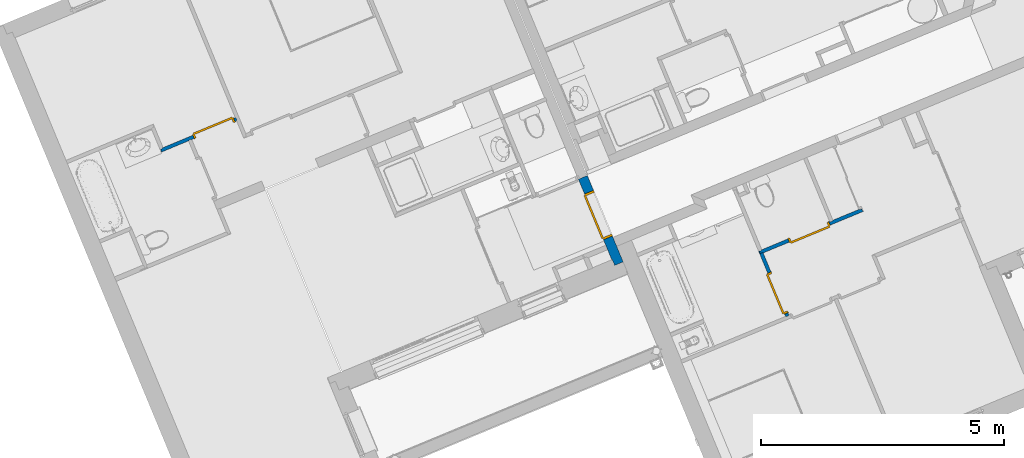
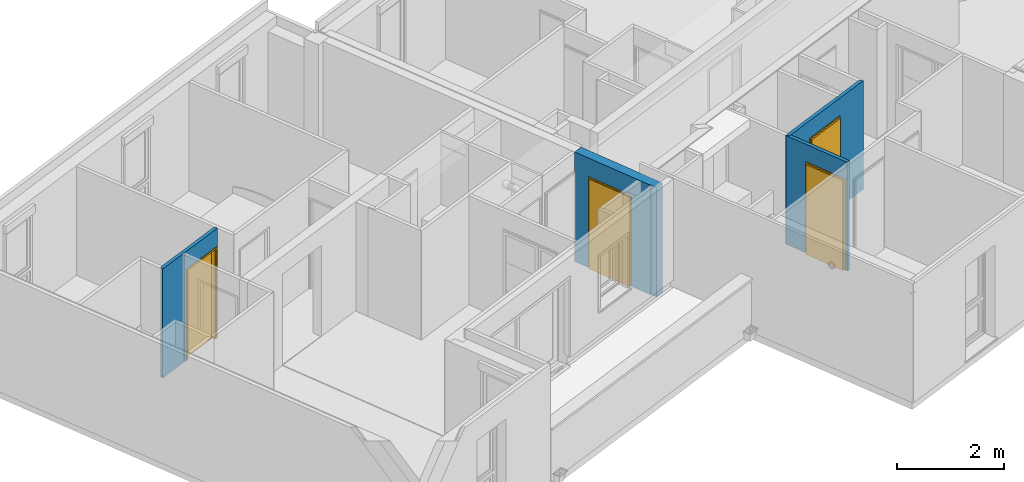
# One storey, part 5 of 91: 4 doors, 4 walls, 4 openings.
"""IFC2X3 building model written with IfcOpenShell, lengths in metres."""

import ifcopenshell
import ifcopenshell.guid

model = None  # the IFC model being written
_history = None  # IfcOwnerHistory: only IFC2X3 demands one
_inside = {}  # id of a spatial element -> (the spatial element, [elements in it])
_under = {}  # id of a project, library or spatial element -> (it, [spatial elements below it])
_declared = {}  # id of a project -> (the project, [libraries it declares])
_typed = {}  # id of a type object -> (the type object, [elements of that type])
_made_of = {}  # id of a material, layer set ... -> (it, [elements and type objects made of it])


def new_model(schema):
    """Start an empty IFC model of exactly this schema.

    Asked for "IFC4X3", IfcOpenShell would pick the latest addendum, in which some entities
    have other attributes; the version numbers below select the first issue.
    IFC2X3 requires an IfcOwnerHistory on every rooted entity: one is made here for all.
    """
    global model, _history
    if schema == "IFC4X3":
        model = ifcopenshell.file(schema_version=(4, 3, 0, 0))
    else:
        model = ifcopenshell.file(schema=schema)
    _inside.clear()
    _under.clear()
    _declared.clear()
    _typed.clear()
    _made_of.clear()
    _history = None
    if model.schema == "IFC2X3":
        org = make("IfcOrganization", Name="unknown")
        user = make(
            "IfcPersonAndOrganization",
            ThePerson=make("IfcPerson", FamilyName="unknown"),
            TheOrganization=org,
        )
        app = make(
            "IfcApplication",
            ApplicationDeveloper=org,
            Version="unknown",
            ApplicationFullName="unknown",
            ApplicationIdentifier="unknown",
        )
        _history = make(
            "IfcOwnerHistory",
            OwningUser=user,
            OwningApplication=app,
            ChangeAction="ADDED",
            CreationDate=0,
        )
    return model


def make(cls, **values):
    """One entity of the class cls with the attributes given. An attribute that is None is left unset."""
    return model.create_entity(
        cls, **{name: value for name, value in values.items() if value is not None}
    )


def entity(cls, *values):
    """Any entity or typed value of the class cls, its attributes in the order of the schema. None: left unset."""
    e = model.create_entity(cls)
    for i, value in enumerate(values):
        if value is not None:
            e[i] = value
    return e


def rooted(cls, **values):
    """An entity with a GlobalId (a new one), such as an element, a storey or a relation."""
    return make(cls, GlobalId=ifcopenshell.guid.new(), OwnerHistory=_history, **values)


def si_unit(unit_type, name, prefix=None):
    """IfcSIUnit, for example si_unit("LENGTHUNIT", "METRE", prefix="MILLI")."""
    return make("IfcSIUnit", UnitType=unit_type, Prefix=prefix, Name=name)


def converted_unit(unit_type, name, factor, base, dimensions=None, offset=None):
    """IfcConversionBasedUnit, such as the inch: factor (a typed value) times the base unit."""
    return make(
        "IfcConversionBasedUnit"
        if offset is None
        else "IfcConversionBasedUnitWithOffset",
        ConversionOffset=offset,
        Dimensions=None
        if dimensions is None
        else entity("IfcDimensionalExponents", *dimensions),
        UnitType=unit_type,
        Name=name,
        ConversionFactor=make(
            "IfcMeasureWithUnit", ValueComponent=factor, UnitComponent=base
        ),
    )


def derived_unit(unit_type, elements):
    """IfcDerivedUnit: a product of units, each with its exponent."""
    return make(
        "IfcDerivedUnit",
        Elements=[
            make("IfcDerivedUnitElement", Unit=unit, Exponent=power)
            for unit, power in elements
        ],
        UnitType=unit_type,
    )


def money_unit(currency):
    """IfcMonetaryUnit."""
    return make("IfcMonetaryUnit", Currency=currency)


def assignment(units):
    """IfcUnitAssignment: the units of a project."""
    return None if units is None else make("IfcUnitAssignment", Units=units)


def point(xyz):
    """IfcCartesianPoint."""
    return None if xyz is None else make("IfcCartesianPoint", Coordinates=xyz)


def direction(xyz):
    """IfcDirection."""
    return None if xyz is None else make("IfcDirection", DirectionRatios=xyz)


def frame(location, z_axis=None, x_axis=None):
    """IfcAxis2Placement3D, a coordinate frame: its origin and axes. An axis left out is left unset."""
    return make(
        "IfcAxis2Placement3D",
        Location=point(location),
        Axis=direction(z_axis),
        RefDirection=direction(x_axis),
    )


def origin_with_axes():
    """The frame at (0, 0, 0) with the z axis (0, 0, 1) and the x axis (1, 0, 0) written out."""
    return frame((0.0, 0.0, 0.0), z_axis=(0.0, 0.0, 1.0), x_axis=(1.0, 0.0, 0.0))


def place(relative_to, where):
    """IfcLocalPlacement: puts the frame where relative to a parent placement (None: the world)."""
    return make(
        "IfcLocalPlacement", PlacementRelTo=relative_to, RelativePlacement=where
    )


def context(
    kind, dimensions, precision=None, world=None, true_north=None, identifier=None
):
    """IfcGeometricRepresentationContext, for example the 3D "Model" context."""
    return make(
        "IfcGeometricRepresentationContext",
        ContextIdentifier=identifier,
        ContextType=kind,
        CoordinateSpaceDimension=dimensions,
        Precision=precision,
        WorldCoordinateSystem=world,
        TrueNorth=true_north,
    )


def subcontext(parent, identifier, kind, view, scale=None):
    """IfcGeometricRepresentationSubContext, for example "Body" below "Model"."""
    return make(
        "IfcGeometricRepresentationSubContext",
        ContextIdentifier=identifier,
        ContextType=kind,
        ParentContext=parent,
        TargetScale=scale,
        TargetView=view,
    )


def project(units=None, contexts=None):
    """IfcProject with its units and contexts."""
    return rooted(
        "IfcProject",
        Name="project",
        RepresentationContexts=contexts,
        UnitsInContext=assignment(units),
    )


def spatial(cls, under=None, at=None, **own):
    """A site, building, storey or space (cls), placed at a placement, below another one or the project."""
    s = rooted(cls, ObjectPlacement=at, **own)
    if under is not None:
        _under.setdefault(under.id(), (under, []))[1].append(s)
    return s


def faces_of(points, faces, orient=None, outer=None):
    """IfcFace entities. A face is a list of loops; a loop is a list of indices into points, from 0.

    orient and outer hold one flag for each loop. By default every Orientation is true, the
    first loop of a face is its IfcFaceOuterBound and the others are IfcFaceBound.
    """
    made = []
    for i, loops in enumerate(faces):
        bounds = []
        for j, loop in enumerate(loops):
            is_outer = j == 0 if outer is None else outer[i][j]
            bounds.append(
                make(
                    "IfcFaceOuterBound" if is_outer else "IfcFaceBound",
                    Bound=make("IfcPolyLoop", Polygon=[points[k] for k in loop]),
                    Orientation=True if orient is None else orient[i][j],
                )
            )
        made.append(make("IfcFace", Bounds=bounds))
    return made


def faceted_brep(points, faces, orient=None, outer=None, voids=None):
    """IfcFacetedBrep: a solid bounded by flat faces; with voids (closed shells), ...WithVoids."""
    shared = [point(p) for p in points]
    hull = make("IfcClosedShell", CfsFaces=faces_of(shared, faces, orient, outer))
    if voids is None:
        return make("IfcFacetedBrep", Outer=hull)
    return make(
        "IfcFacetedBrepWithVoids",
        Outer=hull,
        Voids=[
            make(cls, CfsFaces=faces_of(shared, fs, o, b)) for cls, fs, o, b in voids
        ],
    )


def shape(context_of_items, identifier, shape_type, items):
    """IfcShapeRepresentation: the items that make up one representation, for example the "Body"."""
    return make(
        "IfcShapeRepresentation",
        ContextOfItems=context_of_items,
        RepresentationIdentifier=identifier,
        RepresentationType=shape_type,
        Items=items,
    )


def source(mapping_origin, context_of_items, identifier, shape_type, items):
    """IfcRepresentationMap: a shape defined once, which mapped items show again and again."""
    return make(
        "IfcRepresentationMap",
        MappingOrigin=mapping_origin,
        MappedRepresentation=shape(context_of_items, identifier, shape_type, items),
    )


def transform(
    local_origin,
    x_axis=None,
    y_axis=None,
    z_axis=None,
    scale=None,
    scale2=None,
    scale3=None,
    uniform=True,
):
    """IfcCartesianTransformationOperator3D, or its non-uniform kind. x_axis, y_axis, z_axis: its Axis1, 2, 3."""
    if uniform:
        return make(
            "IfcCartesianTransformationOperator3D",
            Axis1=direction(x_axis),
            Axis2=direction(y_axis),
            LocalOrigin=point(local_origin),
            Scale=scale,
            Axis3=direction(z_axis),
        )
    return make(
        "IfcCartesianTransformationOperator3DnonUniform",
        Axis1=direction(x_axis),
        Axis2=direction(y_axis),
        LocalOrigin=point(local_origin),
        Scale=scale,
        Axis3=direction(z_axis),
        Scale2=scale2,
        Scale3=scale3,
    )


def mapped(mapping_source, mapping_target):
    """IfcMappedItem: shows the shape of a source again, moved by a transform."""
    return make(
        "IfcMappedItem", MappingSource=mapping_source, MappingTarget=mapping_target
    )


def material(Name=None, Category=None):
    """IfcMaterial."""
    return make("IfcMaterial", Name=Name, Category=Category)


def material_list(materials):
    """IfcMaterialList."""
    return make("IfcMaterialList", Materials=materials)


def made_of(thing, what):
    """Note that an element or type object is made of a material, layer set ...; save() writes the relation."""
    if what is not None:
        _made_of.setdefault(what.id(), (what, []))[1].append(thing)
    return thing


def type_object(cls, material=None, **own):
    """A type object (cls), such as IfcWallType, which elements share."""
    return made_of(rooted(cls, **own), material)


def element(
    cls,
    number,
    at=None,
    inside=None,
    cuts=None,
    type_object=None,
    material=None,
    context=None,
    identifier="Body",
    shape_type=None,
    held_by="IfcProductDefinitionShape",
    body=None,
    shapes=None,
    **own,
):
    """One element of the class cls, such as IfcWall. Its Tag is "e" and its number.

    at: its placement. inside: the storey or other place that contains it. cuts: it is an
    opening in that element (IfcRelVoidsElement). A single representation is given by context,
    identifier, shape_type and body (its items); several are given by shapes. held_by: the class
    of the entity that holds the representations. save() writes the other relations.
    """
    e = rooted(cls, Tag="e%d" % number, ObjectPlacement=at, **own)
    if body is not None:
        shapes = [shape(context, identifier, shape_type, body)]
    if shapes is not None:
        e.Representation = make(held_by, Representations=shapes)
    if inside is not None:
        _inside.setdefault(inside.id(), (inside, []))[1].append(e)
    if cuts is not None:
        rooted(
            "IfcRelVoidsElement", RelatingBuildingElement=cuts, RelatedOpeningElement=e
        )
    if type_object is not None:
        _typed.setdefault(type_object.id(), (type_object, []))[1].append(e)
    return made_of(e, material)


def fill(opening, filler):
    """IfcRelFillsElement: the door or window that sits in an opening."""
    return rooted(
        "IfcRelFillsElement",
        RelatingOpeningElement=opening,
        RelatedBuildingElement=filler,
    )


def aggregate(whole, parts):
    """IfcRelAggregates: a whole, such as a stair, and the parts it consists of."""
    return rooted("IfcRelAggregates", RelatingObject=whole, RelatedObjects=parts)


def save(model, path):
    """Write the relations noted so far, then the file.

    IfcRelAggregates (storeys below a building ...), IfcRelContainedInSpatialStructure (elements
    in a storey), IfcRelDefinesByType, IfcRelAssociatesMaterial and IfcRelDeclares: one each for
    every whole, place, type object, material and project.
    """
    for whole, parts in _under.values():
        aggregate(whole, parts)
    for where, things in _inside.values():
        rooted(
            "IfcRelContainedInSpatialStructure",
            RelatedElements=things,
            RelatingStructure=where,
        )
    for kind, things in _typed.values():
        rooted("IfcRelDefinesByType", RelatedObjects=things, RelatingType=kind)
    for what, things in _made_of.values():
        rooted("IfcRelAssociatesMaterial", RelatedObjects=things, RelatingMaterial=what)
    for by, libraries in _declared.values():
        rooted("IfcRelDeclares", RelatingContext=by, RelatedDefinitions=libraries)
    model.write(path)


model = new_model("IFC2X3")

# Units and contexts
model_context = context("Model", 3, precision=1e-05, world=origin_with_axes(), true_north=direction((0.0, 1.0)))
body_context = subcontext(model_context, "Body", "Model", "MODEL_VIEW")
ifc_project = project(units=[si_unit("LENGTHUNIT", "METRE"), si_unit("AREAUNIT", "SQUARE_METRE"), si_unit("VOLUMEUNIT", "CUBIC_METRE"), converted_unit("PLANEANGLEUNIT", "DEGREE", entity("IfcPlaneAngleMeasure", 0.0174532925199), si_unit("PLANEANGLEUNIT", "RADIAN"), dimensions=[0, 0, 0, 0, 0, 0, 0]), si_unit("SOLIDANGLEUNIT", "STERADIAN"), money_unit("EUR"), converted_unit("TIMEUNIT", "Year", entity("IfcTimeMeasure", 31556926.0), si_unit("TIMEUNIT", "SECOND"), dimensions=[0, 0, 1, 0, 0, 0, 0]), si_unit("MASSUNIT", "GRAM", prefix="KILO"), si_unit("THERMODYNAMICTEMPERATUREUNIT", "DEGREE_CELSIUS"), si_unit("LUMINOUSINTENSITYUNIT", "LUMEN"), si_unit("ENERGYUNIT", "JOULE", prefix="MEGA"), derived_unit("THERMALCONDUCTANCEUNIT", [(si_unit("POWERUNIT", "WATT"), 1), (si_unit("LENGTHUNIT", "METRE"), -1), (si_unit("THERMODYNAMICTEMPERATUREUNIT", "KELVIN"), -1)]), derived_unit("SPECIFICHEATCAPACITYUNIT", [(si_unit("ENERGYUNIT", "JOULE"), 1), (si_unit("MASSUNIT", "GRAM", prefix="KILO"), -1), (si_unit("THERMODYNAMICTEMPERATUREUNIT", "KELVIN"), -1)]), derived_unit("MASSDENSITYUNIT", [(si_unit("MASSUNIT", "GRAM", prefix="KILO"), 1), (si_unit("VOLUMEUNIT", "CUBIC_METRE"), -1)])], contexts=[model_context])

# Site, building, storey
site_placement = place(None, origin_with_axes())
site = spatial("IfcSite", under=ifc_project, at=site_placement, Name="Site", CompositionType="ELEMENT")
building_placement = place(site_placement, origin_with_axes())
building = spatial("IfcBuilding", under=site, at=building_placement, Name="Bâtiment", CompositionType="ELEMENT")
storey_placement = place(building_placement, frame((0.0, 0.0, 5.44), z_axis=(0.0, 0.0, 1.0), x_axis=(1.0, 0.0, 0.0)))
storey = spatial("IfcBuildingStorey", under=building, at=storey_placement, Name="R+2", CompositionType="ELEMENT", Elevation=5.44)

# Wall, opening, door
ifc_material_1 = material(Name="Finition int - Plaque de plâtre")
ifc_material_2 = material(Name="Isolation - Laine de roche")
ifc_material_list_1 = material_list([ifc_material_1, ifc_material_2, ifc_material_1])
wall_type_1 = type_object("IfcWallType", Name="3 - Cloison 72mm Placostil 74", PredefinedType="USERDEFINED")
wall_1_placement = place(storey_placement, frame((-19.5274599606, -22.5640409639, 0.0), z_axis=(0.0, 0.0, 1.0), x_axis=(0.923701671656, 0.383112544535, 0.0)))
wall_1 = element("IfcWall", 1, at=wall_1_placement, inside=storey, type_object=wall_type_1, material=ifc_material_list_1, Name="Cloison Placostil 72/48", ObjectType="PARTITIONING", context=body_context, shape_type="Brep", body=[
    faceted_brep([(-0.0609999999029, 0.074, 2.49), (-0.060999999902, 0.061, 2.49), (-0.060999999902, 0.061, 0.0), (-0.0609999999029, 0.074, 0.0), (-0.073999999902, 0.061, 2.49), (-0.0739999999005, 0.074, 2.49), (-0.073999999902, 0.061, 0.0), (-0.0739999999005, 0.074, 0.0)], [[[0, 1, 2, 3]], [[4, 1, 0, 5]], [[1, 4, 6, 2]], [[7, 3, 2, 6]], [[5, 0, 3, 7]], [[4, 5, 7, 6]]]),
    faceted_brep([(0.58436218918, 0.061, 0.0), (0.58436218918, 0.061, 2.08), (1.49436218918, 0.061, 2.08), (1.49436218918, 0.061, 0.0), (1.52599999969, 0.061, 0.0), (1.52599999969, 0.061, 2.49), (-0.013, 0.061, 2.49), (-0.013, 0.061, 0.0), (0.58436218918, 0.074, 0.0), (0.58436218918, 0.074, 2.08), (1.49436218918, 0.074, 2.08), (1.49436218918, 0.074, 0.0), (1.52599999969, 0.074, 0.0), (1.52599999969, 0.074, 2.49), (-0.013, 0.074, 2.49), (-0.013, 0.074, 0.0)], [[[0, 1, 2, 3, 4, 5, 6, 7]], [[1, 0, 8, 9]], [[2, 1, 9, 10]], [[3, 2, 10, 11]], [[3, 11, 12, 4]], [[5, 4, 12, 13]], [[5, 13, 14, 6]], [[14, 15, 7, 6]], [[8, 0, 7, 15]], [[9, 8, 15, 14, 13, 12, 11, 10]]]),
    faceted_brep([(2.1759999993, 0.074, 2.49), (2.17599999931, 0.061, 2.49), (2.17599999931, 0.061, 0.0), (2.1759999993, 0.074, 0.0), (1.57399999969, 0.061, 2.49), (1.57399999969, 0.074, 2.49), (1.57399999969, 0.061, 0.0), (1.57399999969, 0.074, 0.0)], [[[0, 1, 2, 3]], [[4, 1, 0, 5]], [[1, 4, 6, 2]], [[3, 2, 6, 7]], [[5, 0, 3, 7]], [[4, 5, 7, 6]]]),
    faceted_brep([(0.58436218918, 0.013, 0.0), (0.58436218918, 0.013, 2.08), (1.49436218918, 0.013, 2.08), (1.49436218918, 0.013, 0.0), (2.22399999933, 0.013, 0.0), (2.22399999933, 0.013, 2.49), (-0.0609999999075, 0.013, 2.49), (-0.0609999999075, 0.013, 0.0), (0.58436218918, 0.061, 0.0), (0.58436218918, 0.061, 2.08), (1.49436218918, 0.061, 2.08), (1.49436218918, 0.061, 0.0), (2.22399999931, 0.061, 0.0), (2.22399999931, 0.061, 2.49), (-0.060999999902, 0.061, 2.49), (-0.060999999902, 0.061, 0.0)], [[[0, 1, 2, 3, 4, 5, 6, 7]], [[1, 0, 8, 9]], [[2, 1, 9, 10]], [[3, 2, 10, 11]], [[3, 11, 12, 4]], [[5, 4, 12, 13]], [[5, 13, 14, 6]], [[14, 15, 7, 6]], [[8, 0, 7, 15]], [[9, 8, 15, 14, 13, 12, 11, 10]]]),
    faceted_brep([(0.58436218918, 0.0, 0.0), (0.58436218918, 0.0, 2.08), (1.49436218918, 0.0, 2.08), (1.49436218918, 0.0, 0.0), (2.23699999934, 0.0, 0.0), (2.23699999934, 0.0, 2.49), (-0.012999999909, 0.0, 2.49), (-0.012999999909, 0.0, 0.0), (0.58436218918, 0.013, 0.0), (0.58436218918, 0.013, 2.08), (1.49436218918, 0.013, 2.08), (1.49436218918, 0.013, 0.0), (2.23699999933, 0.013, 0.0), (2.23699999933, 0.013, 2.49), (-0.0129999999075, 0.013, 2.49), (-0.0129999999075, 0.013, 0.0)], [[[0, 1, 2, 3, 4, 5, 6, 7]], [[1, 0, 8, 9]], [[2, 1, 9, 10]], [[3, 2, 10, 11]], [[3, 11, 12, 4]], [[5, 4, 12, 13]], [[5, 13, 14, 6]], [[14, 15, 7, 6]], [[8, 0, 7, 15]], [[9, 8, 15, 14, 13, 12, 11, 10]]]),
])
opening_1_placement = place(wall_1_placement, frame((1.03936218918, 0.0, 0.0), z_axis=(0.0, 0.0, 1.0), x_axis=(1.0, 0.0, 0.0)))
opening_1 = element("IfcOpeningElement", 2, at=opening_1_placement, cuts=wall_1, Name="Porte 83x204 bois alvéolaire", context=body_context, shape_type="Brep", body=[
    faceted_brep([(-0.455, 0.074, 0.0), (0.455, 0.074, 0.0), (0.455, -0.074, 0.0), (-0.455, -0.074, 0.0), (-0.455, 0.074, 2.08), (0.455, 0.074, 2.08), (0.455, -0.074, 2.08), (-0.455, -0.074, 2.08)], [[[0, 1, 2, 3]], [[0, 4, 5, 1]], [[1, 5, 6, 2]], [[3, 2, 6, 7]], [[4, 0, 3, 7]], [[5, 4, 7, 6]]]),
])
door_style_1 = type_object("IfcDoorStyle", Name="Porte int générique 2019", ConstructionType="NOTDEFINED", OperationType="SINGLE_SWING_RIGHT", ParameterTakesPrecedence=False, Sizeable=False)
shared_shape_1 = source(origin_with_axes(), body_context, "Body", "Brep", [
    faceted_brep([(0.455, 0.0, 0.0), (0.415, 0.0, 0.0), (0.415, 0.0, 2.04), (-0.415, 0.0, 2.04), (-0.415, 0.0, 0.0), (-0.455, 0.0, 0.0), (-0.455, 0.0, 2.08), (0.455, 0.0, 2.08), (0.455, -0.074, 0.0), (0.415, -0.074, 0.0), (0.415, -0.074, 2.04), (-0.415, -0.074, 2.04), (-0.415, -0.074, 0.0), (-0.455, -0.074, 0.0), (-0.455, -0.074, 2.08), (0.455, -0.074, 2.08)], [[[0, 1, 2, 3, 4, 5, 6, 7]], [[0, 8, 9, 1]], [[1, 9, 10, 2]], [[2, 10, 11, 3]], [[3, 11, 12, 4]], [[5, 4, 12, 13]], [[14, 6, 5, 13]], [[15, 7, 6, 14]], [[8, 0, 7, 15]], [[9, 8, 15, 14, 13, 12, 11, 10]]]),
    faceted_brep([(0.465, 0.0, 0.0), (0.465, 0.01, 0.0), (0.465, 0.01, 2.09), (0.465, 0.0, 2.09), (0.435, 0.0, 0.0), (0.435, 0.01, 0.0), (0.435, 0.01, 2.06), (-0.435, 0.01, 2.06), (-0.435, 0.01, 0.0), (-0.465, 0.01, 0.0), (-0.465, 0.01, 2.09), (-0.465, 0.0, 2.09), (-0.465, 0.0, 0.0), (-0.435, 0.0, 0.0), (-0.435, 0.0, 2.06), (0.435, 0.0, 2.06)], [[[0, 1, 2, 3]], [[0, 4, 5, 1]], [[1, 5, 6, 7, 8, 9, 10, 2]], [[3, 2, 10, 11]], [[4, 0, 3, 11, 12, 13, 14, 15]], [[5, 4, 15, 6]], [[6, 15, 14, 7]], [[7, 14, 13, 8]], [[12, 9, 8, 13]], [[11, 10, 9, 12]]]),
    faceted_brep([(0.465, -0.084, 0.0), (0.465, -0.074, 0.0), (0.465, -0.074, 2.09), (0.465, -0.084, 2.09), (0.435, -0.084, 0.0), (0.435, -0.074, 0.0), (0.435, -0.074, 2.06), (-0.435, -0.074, 2.06), (-0.435, -0.074, 0.0), (-0.465, -0.074, 0.0), (-0.465, -0.074, 2.09), (-0.465, -0.084, 2.09), (-0.465, -0.084, 0.0), (-0.435, -0.084, 0.0), (-0.435, -0.084, 2.06), (0.435, -0.084, 2.06)], [[[0, 1, 2, 3]], [[0, 4, 5, 1]], [[1, 5, 6, 7, 8, 9, 10, 2]], [[3, 2, 10, 11]], [[4, 0, 3, 11, 12, 13, 14, 15]], [[5, 4, 15, 6]], [[6, 15, 14, 7]], [[7, 14, 13, 8]], [[12, 9, 8, 13]], [[11, 10, 9, 12]]]),
    faceted_brep([(0.435, 0.04, 0.0), (0.435, 0.0, 0.0), (-0.435, 0.0, 0.0), (-0.435, 0.04, 0.0), (0.435, 0.04, 2.06), (0.435, 0.0, 2.06), (-0.435, 0.0, 2.06), (-0.435, 0.04, 2.06)], [[[0, 1, 2, 3]], [[4, 5, 1, 0]], [[1, 5, 6, 2]], [[3, 2, 6, 7]], [[0, 3, 7, 4]], [[7, 6, 5, 4]]]),
])
door_1_placement = place(opening_1_placement, frame((0.415, 0.0, 0.0), z_axis=(0.0, 0.0, 1.0), x_axis=(-1.0, 0.0, 0.0)))
door_1 = element("IfcDoor", 3, at=door_1_placement, inside=storey, type_object=door_style_1, Name="Porte 83x204 bois alvéolaire", ObjectType="DOOR", OverallHeight=2.04, OverallWidth=0.83, context=body_context, shape_type="MappedRepresentation", body=[
    mapped(shared_shape_1, transform((0.415, 0.0, 0.0))),
])
fill(opening_1, door_1)

wall_2_placement = place(storey_placement, frame((-31.9688321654, -20.4191360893, 0.0), z_axis=(0.0, 0.0, 1.0), x_axis=(0.92370167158, 0.383112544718, 0.0)))
wall_2 = element("IfcWall", 4, at=wall_2_placement, inside=storey, type_object=wall_type_1, material=ifc_material_list_1, Name="Cloison Placostil 72/48", ObjectType="PARTITIONING", context=body_context, shape_type="Brep", body=[
    faceted_brep([(0.73841163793, -0.013, 0.0), (0.73841163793, -0.013, 2.08), (1.64841163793, -0.013, 2.08), (1.64841163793, -0.013, 0.0), (1.68537633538, -0.013, 0.0), (1.68537633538, -0.013, 2.5), (0.0610000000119, -0.013, 2.5), (0.0610000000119, -0.013, 0.0), (0.73841163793, 0.0, 0.0), (0.73841163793, 0.0, 2.08), (1.64841163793, 0.0, 2.08), (1.64841163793, 0.0, 0.0), (1.68537633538, 0.0, 0.0), (1.68537633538, 0.0, 2.5), (0.061, 0.0, 2.5), (0.061, 0.0, 0.0)], [[[0, 1, 2, 3, 4, 5, 6, 7]], [[1, 0, 8, 9]], [[2, 1, 9, 10]], [[3, 2, 10, 11]], [[3, 11, 12, 4]], [[5, 4, 12, 13]], [[13, 14, 6, 5]], [[6, 14, 15, 7]], [[8, 0, 7, 15]], [[9, 8, 15, 14, 13, 12, 11, 10]]]),
    faceted_brep([(0.73841163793, -0.061, 0.0), (0.73841163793, -0.061, 2.08), (1.64841163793, -0.061, 2.08), (1.64841163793, -0.061, 0.0), (1.69837633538, -0.061, 0.0), (1.69837633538, -0.061, 2.5), (0.0130000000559, -0.061, 2.5), (0.0130000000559, -0.061, 0.0), (0.73841163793, -0.013, 0.0), (0.73841163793, -0.013, 2.08), (1.64841163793, -0.013, 2.08), (1.64841163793, -0.013, 0.0), (1.69837633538, -0.013, 0.0), (1.69837633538, -0.013, 2.5), (0.0130000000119, -0.013, 2.5), (0.0130000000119, -0.013, 0.0)], [[[0, 1, 2, 3, 4, 5, 6, 7]], [[1, 0, 8, 9]], [[2, 1, 9, 10]], [[3, 2, 10, 11]], [[3, 11, 12, 4]], [[5, 4, 12, 13]], [[13, 14, 6, 5]], [[6, 14, 15, 7]], [[8, 0, 7, 15]], [[9, 8, 15, 14, 13, 12, 11, 10]]]),
    faceted_brep([(0.73841163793, -0.074, 0.0), (0.73841163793, -0.074, 2.08), (1.64841163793, -0.074, 2.08), (1.64841163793, -0.074, 0.0), (1.68537633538, -0.074, 0.0), (1.68537633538, -0.074, 2.5), (0.672359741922, -0.074, 2.5), (0.672359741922, -0.074, 0.0), (0.73841163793, -0.061, 0.0), (0.73841163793, -0.061, 2.08), (1.64841163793, -0.061, 2.08), (1.64841163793, -0.061, 0.0), (1.68537633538, -0.061, 0.0), (1.68537633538, -0.061, 2.5), (0.672359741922, -0.061, 2.5), (0.672359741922, -0.061, 0.0)], [[[0, 1, 2, 3, 4, 5, 6, 7]], [[1, 0, 8, 9]], [[2, 1, 9, 10]], [[3, 2, 10, 11]], [[3, 11, 12, 4]], [[5, 4, 12, 13]], [[13, 14, 6, 5]], [[6, 14, 15, 7]], [[8, 0, 7, 15]], [[9, 8, 15, 14, 13, 12, 11, 10]]]),
    faceted_brep([(0.624359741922, -0.074, 2.5), (0.624359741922, -0.061, 2.5), (0.0, -0.061, 2.5), (0.0, -0.074, 2.5), (0.624359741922, -0.074, 0.0), (0.624359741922, -0.061, 0.0), (0.0, -0.061, 0.0), (0.0, -0.074, 0.0)], [[[0, 1, 2, 3]], [[1, 0, 4, 5]], [[1, 5, 6, 2]], [[7, 3, 2, 6]], [[4, 0, 3, 7]], [[5, 4, 7, 6]]]),
])
opening_2_placement = place(wall_2_placement, frame((1.19341163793, 0.0, 0.0), z_axis=(0.0, 0.0, 1.0), x_axis=(1.0, 0.0, 0.0)))
opening_2 = element("IfcOpeningElement", 5, at=opening_2_placement, cuts=wall_2, Name="Porte 83x204 bois alvéolaire", context=body_context, shape_type="Brep", body=[
    faceted_brep([(0.455, -0.074, 0.0), (-0.455, -0.074, 0.0), (-0.455, 0.074, 0.0), (0.455, 0.074, 0.0), (0.455, -0.074, 2.08), (-0.455, -0.074, 2.08), (-0.455, 0.074, 2.08), (0.455, 0.074, 2.08)], [[[0, 1, 2, 3]], [[0, 4, 5, 1]], [[1, 5, 6, 2]], [[3, 2, 6, 7]], [[4, 0, 3, 7]], [[5, 4, 7, 6]]]),
])
shared_shape_2 = source(origin_with_axes(), body_context, "Body", "Brep", [
    faceted_brep([(0.455, -0.006, 0.0), (0.415, -0.006, 0.0), (0.415, -0.006, 2.04), (-0.415, -0.006, 2.04), (-0.415, -0.006, 0.0), (-0.455, -0.006, 0.0), (-0.455, -0.006, 2.08), (0.455, -0.006, 2.08), (0.455, -0.08, 0.0), (0.415, -0.08, 0.0), (0.415, -0.08, 2.04), (-0.415, -0.08, 2.04), (-0.415, -0.08, 0.0), (-0.455, -0.08, 0.0), (-0.455, -0.08, 2.08), (0.455, -0.08, 2.08)], [[[0, 1, 2, 3, 4, 5, 6, 7]], [[0, 8, 9, 1]], [[1, 9, 10, 2]], [[2, 10, 11, 3]], [[3, 11, 12, 4]], [[5, 4, 12, 13]], [[14, 6, 5, 13]], [[15, 7, 6, 14]], [[8, 0, 7, 15]], [[9, 8, 15, 14, 13, 12, 11, 10]]]),
    faceted_brep([(0.465, -0.006, 0.0), (0.465, 0.004, 0.0), (0.465, 0.004, 2.09), (0.465, -0.006, 2.09), (0.435, -0.006, 0.0), (0.435, 0.004, 0.0), (0.435, 0.004, 2.06), (-0.435, 0.004, 2.06), (-0.435, 0.004, 0.0), (-0.465, 0.004, 0.0), (-0.465, 0.004, 2.09), (-0.465, -0.006, 2.09), (-0.465, -0.006, 0.0), (-0.435, -0.006, 0.0), (-0.435, -0.006, 2.06), (0.435, -0.006, 2.06)], [[[0, 1, 2, 3]], [[0, 4, 5, 1]], [[1, 5, 6, 7, 8, 9, 10, 2]], [[3, 2, 10, 11]], [[4, 0, 3, 11, 12, 13, 14, 15]], [[5, 4, 15, 6]], [[6, 15, 14, 7]], [[7, 14, 13, 8]], [[12, 9, 8, 13]], [[11, 10, 9, 12]]]),
    faceted_brep([(0.465, -0.09, 0.0), (0.465, -0.08, 0.0), (0.465, -0.08, 2.09), (0.465, -0.09, 2.09), (0.435, -0.09, 0.0), (0.435, -0.08, 0.0), (0.435, -0.08, 2.06), (-0.435, -0.08, 2.06), (-0.435, -0.08, 0.0), (-0.465, -0.08, 0.0), (-0.465, -0.08, 2.09), (-0.465, -0.09, 2.09), (-0.465, -0.09, 0.0), (-0.435, -0.09, 0.0), (-0.435, -0.09, 2.06), (0.435, -0.09, 2.06)], [[[0, 1, 2, 3]], [[0, 4, 5, 1]], [[1, 5, 6, 7, 8, 9, 10, 2]], [[3, 2, 10, 11]], [[4, 0, 3, 11, 12, 13, 14, 15]], [[5, 4, 15, 6]], [[6, 15, 14, 7]], [[7, 14, 13, 8]], [[12, 9, 8, 13]], [[11, 10, 9, 12]]]),
    faceted_brep([(0.435, 0.034, 0.0), (0.435, -0.006, 0.0), (-0.435, -0.006, 0.0), (-0.435, 0.034, 0.0), (0.435, 0.034, 2.06), (0.435, -0.006, 2.06), (-0.435, -0.006, 2.06), (-0.435, 0.034, 2.06)], [[[0, 1, 2, 3]], [[4, 5, 1, 0]], [[1, 5, 6, 2]], [[3, 2, 6, 7]], [[0, 3, 7, 4]], [[7, 6, 5, 4]]]),
])
door_2_placement = place(opening_2_placement, frame((-0.415, 0.0, 0.0), z_axis=(0.0, 0.0, 1.0), x_axis=(1.0, 0.0, 0.0)))
door_2 = element("IfcDoor", 6, at=door_2_placement, inside=storey, type_object=door_style_1, Name="Porte 83x204 bois alvéolaire", ObjectType="DOOR", OverallHeight=2.04, OverallWidth=0.83, context=body_context, shape_type="MappedRepresentation", body=[
    mapped(shared_shape_2, transform((0.415, 0.006, 0.0))),
])
fill(opening_2, door_2)

wall_3_placement = place(storey_placement, frame((-19.5274599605, -22.5640409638, 0.0), z_axis=(0.0, 0.0, 1.0), x_axis=(0.383112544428, -0.9237016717, 0.0)))
wall_3 = element("IfcWall", 7, at=wall_3_placement, inside=storey, type_object=wall_type_1, material=ifc_material_list_1, Name="Cloison Placostil 72/48", ObjectType="PARTITIONING", context=body_context, shape_type="Brep", body=[
    faceted_brep([(0.421831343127, 0.0, 2.08), (0.421831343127, 0.0, 0.0), (0.0, 0.0, 0.0), (0.0, 0.0, 2.49), (1.38390078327, 0.0, 2.49), (1.38390078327, 0.0, 0.0), (1.33183134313, 0.0, 0.0), (1.33183134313, 0.0, 2.08), (0.421831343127, -0.013, 2.08), (0.421831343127, -0.013, 0.0), (0.0, -0.013, 0.0), (0.0, -0.013, 2.49), (1.38390078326, -0.013, 2.49), (1.38390078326, -0.013, 0.0), (1.33183134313, -0.013, 0.0), (1.33183134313, -0.013, 2.08)], [[[0, 1, 2, 3, 4, 5, 6, 7]], [[1, 0, 8, 9]], [[1, 9, 10, 2]], [[3, 2, 10, 11]], [[4, 3, 11, 12]], [[12, 13, 5, 4]], [[14, 6, 5, 13]], [[7, 6, 14, 15]], [[0, 7, 15, 8]], [[15, 14, 13, 12, 11, 10, 9, 8]]]),
    faceted_brep([(0.421831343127, -0.013, 2.08), (0.421831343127, -0.013, 0.0), (-0.0129999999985, -0.013, 0.0), (-0.0129999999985, -0.013, 2.49), (1.39690078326, -0.013, 2.49), (1.39690078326, -0.013, 0.0), (1.33183134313, -0.013, 0.0), (1.33183134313, -0.013, 2.08), (0.421831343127, -0.061, 2.08), (0.421831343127, -0.061, 0.0), (-0.0129999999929, -0.061, 0.0), (-0.0129999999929, -0.061, 2.49), (1.39690078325, -0.061, 2.49), (1.39690078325, -0.061, 0.0), (1.33183134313, -0.061, 0.0), (1.33183134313, -0.061, 2.08)], [[[0, 1, 2, 3, 4, 5, 6, 7]], [[1, 0, 8, 9]], [[1, 9, 10, 2]], [[3, 2, 10, 11]], [[4, 3, 11, 12]], [[12, 13, 5, 4]], [[14, 6, 5, 13]], [[7, 6, 14, 15]], [[0, 7, 15, 8]], [[15, 14, 13, 12, 11, 10, 9, 8]]]),
    faceted_brep([(0.421831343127, -0.061, 2.08), (0.421831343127, -0.061, 0.0), (-0.0609999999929, -0.061, 0.0), (-0.0609999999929, -0.061, 2.49), (1.38390078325, -0.061, 2.49), (1.38390078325, -0.061, 0.0), (1.33183134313, -0.061, 0.0), (1.33183134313, -0.061, 2.08), (0.421831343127, -0.074, 2.08), (0.421831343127, -0.074, 0.0), (-0.0609999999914, -0.074, 0.0), (-0.0609999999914, -0.074, 2.49), (1.38390078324, -0.074, 2.49), (1.38390078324, -0.074, 0.0), (1.33183134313, -0.074, 0.0), (1.33183134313, -0.074, 2.08)], [[[0, 1, 2, 3, 4, 5, 6, 7]], [[1, 0, 8, 9]], [[1, 9, 10, 2]], [[3, 2, 10, 11]], [[4, 3, 11, 12]], [[12, 13, 5, 4]], [[14, 6, 5, 13]], [[7, 6, 14, 15]], [[0, 7, 15, 8]], [[15, 14, 13, 12, 11, 10, 9, 8]]]),
])
opening_3_placement = place(wall_3_placement, frame((0.876831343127, 0.0, 0.0), z_axis=(0.0, 0.0, 1.0), x_axis=(1.0, 0.0, 0.0)))
opening_3 = element("IfcOpeningElement", 8, at=opening_3_placement, cuts=wall_3, Name="Porte 83x204 bois alvéolaire", context=body_context, shape_type="Brep", body=[
    faceted_brep([(0.455, -0.074, 0.0), (-0.455, -0.074, 0.0), (-0.455, 0.074, 0.0), (0.455, 0.074, 0.0), (0.455, -0.074, 2.08), (-0.455, -0.074, 2.08), (-0.455, 0.074, 2.08), (0.455, 0.074, 2.08)], [[[0, 1, 2, 3]], [[0, 4, 5, 1]], [[1, 5, 6, 2]], [[3, 2, 6, 7]], [[4, 0, 3, 7]], [[5, 4, 7, 6]]]),
])
door_style_2 = type_object("IfcDoorStyle", Name="Porte int générique 2019", ConstructionType="NOTDEFINED", OperationType="SINGLE_SWING_LEFT", ParameterTakesPrecedence=False, Sizeable=False)
shared_shape_3 = source(origin_with_axes(), body_context, "Body", "Brep", [
    faceted_brep([(-0.455, -0.006, 0.0), (-0.455, -0.006, 2.08), (0.455, -0.006, 2.08), (0.455, -0.006, 0.0), (0.415, -0.006, 0.0), (0.415, -0.006, 2.04), (-0.415, -0.006, 2.04), (-0.415, -0.006, 0.0), (-0.455, -0.08, 0.0), (-0.455, -0.08, 2.08), (0.455, -0.08, 2.08), (0.455, -0.08, 0.0), (0.415, -0.08, 0.0), (0.415, -0.08, 2.04), (-0.415, -0.08, 2.04), (-0.415, -0.08, 0.0)], [[[0, 1, 2, 3, 4, 5, 6, 7]], [[8, 9, 1, 0]], [[9, 10, 2, 1]], [[10, 11, 3, 2]], [[3, 11, 12, 4]], [[5, 4, 12, 13]], [[6, 5, 13, 14]], [[7, 6, 14, 15]], [[0, 7, 15, 8]], [[15, 14, 13, 12, 11, 10, 9, 8]]]),
    faceted_brep([(-0.465, -0.006, 0.0), (-0.465, -0.006, 2.09), (-0.465, 0.004, 2.09), (-0.465, 0.004, 0.0), (-0.435, -0.006, 0.0), (-0.435, -0.006, 2.06), (0.435, -0.006, 2.06), (0.435, -0.006, 0.0), (0.465, -0.006, 0.0), (0.465, -0.006, 2.09), (0.465, 0.004, 2.09), (0.465, 0.004, 0.0), (0.435, 0.004, 0.0), (0.435, 0.004, 2.06), (-0.435, 0.004, 2.06), (-0.435, 0.004, 0.0)], [[[0, 1, 2, 3]], [[4, 5, 6, 7, 8, 9, 1, 0]], [[1, 9, 10, 2]], [[3, 2, 10, 11, 12, 13, 14, 15]], [[0, 3, 15, 4]], [[15, 14, 5, 4]], [[14, 13, 6, 5]], [[13, 12, 7, 6]], [[8, 7, 12, 11]], [[9, 8, 11, 10]]]),
    faceted_brep([(-0.465, -0.09, 0.0), (-0.465, -0.09, 2.09), (-0.465, -0.08, 2.09), (-0.465, -0.08, 0.0), (-0.435, -0.09, 0.0), (-0.435, -0.09, 2.06), (0.435, -0.09, 2.06), (0.435, -0.09, 0.0), (0.465, -0.09, 0.0), (0.465, -0.09, 2.09), (0.465, -0.08, 2.09), (0.465, -0.08, 0.0), (0.435, -0.08, 0.0), (0.435, -0.08, 2.06), (-0.435, -0.08, 2.06), (-0.435, -0.08, 0.0)], [[[0, 1, 2, 3]], [[4, 5, 6, 7, 8, 9, 1, 0]], [[1, 9, 10, 2]], [[3, 2, 10, 11, 12, 13, 14, 15]], [[0, 3, 15, 4]], [[15, 14, 5, 4]], [[14, 13, 6, 5]], [[13, 12, 7, 6]], [[8, 7, 12, 11]], [[9, 8, 11, 10]]]),
    faceted_brep([(-0.435, 0.034, 0.0), (0.435, 0.034, 0.0), (0.435, -0.006, 0.0), (-0.435, -0.006, 0.0), (-0.435, 0.034, 2.06), (0.435, 0.034, 2.06), (0.435, -0.006, 2.06), (-0.435, -0.006, 2.06)], [[[0, 1, 2, 3]], [[0, 4, 5, 1]], [[1, 5, 6, 2]], [[3, 2, 6, 7]], [[4, 0, 3, 7]], [[5, 4, 7, 6]]]),
])
door_3_placement = place(opening_3_placement, frame((0.415, 0.0, 0.0), z_axis=(0.0, 0.0, 1.0), x_axis=(-1.0, 0.0, 0.0)))
door_3 = element("IfcDoor", 9, at=door_3_placement, inside=storey, type_object=door_style_2, Name="Porte 83x204 bois alvéolaire", ObjectType="DOOR", OverallHeight=2.04, OverallWidth=0.83, context=body_context, shape_type="MappedRepresentation", body=[
    mapped(shared_shape_3, transform((0.415, 0.08, 0.0))),
])
fill(opening_3, door_3)

ifc_material_3 = material(Name="Finition int - Enduit plâtre")
ifc_material_4 = material(Name="Béton")
ifc_material_list_2 = material_list([ifc_material_3, ifc_material_4, ifc_material_3])
wall_type_2 = type_object("IfcWallType", Name="2 - Murs Béton 18 + Enduit 2 Faces 200", PredefinedType="USERDEFINED")
wall_4_placement = place(storey_placement, frame((-23.1620561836, -20.9710818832, 0.0), z_axis=(0.0, 0.0, 1.0), x_axis=(0.383112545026, -0.923701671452, 0.0)))
wall_4 = element("IfcWall", 10, at=wall_4_placement, inside=storey, type_object=wall_type_2, material=ifc_material_list_2, Name="M_Ext-008", ObjectType="SOLIDWALL", context=body_context, shape_type="Brep", body=[
    faceted_brep([(0.330109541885, 0.01, 2.085), (0.330109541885, 0.01, 0.0), (0.0, 0.01, 0.0), (0.0, 0.01, 2.51), (1.92732751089, 0.01, 2.50999999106), (1.92732751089, 0.01, 0.399999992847), (1.92732751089, 0.01, 0.229999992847), (1.92732751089, 0.01, 0.2), (1.92732751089, 0.01, 0.109999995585), (1.92732751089, 0.01, 0.0), (1.35010954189, 0.01, 0.0), (1.35010954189, 0.01, 2.085), (0.330109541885, 0.0, 2.085), (0.330109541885, 0.0, 0.0), (0.0, 0.0, 0.0), (0.0, 0.0, 2.51), (1.92732751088, 0.0, 2.50999999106), (1.92732751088, 0.0, 0.399999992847), (1.92732751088, 0.0, 0.229999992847), (1.92732751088, 0.0, 0.2), (1.92732751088, 0.0, 0.109999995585), (1.92732751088, 0.0, 0.0), (1.35010954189, 0.0, 0.0), (1.35010954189, 0.0, 2.085)], [[[0, 1, 2, 3, 4, 5, 6, 7, 8, 9, 10, 11]], [[1, 0, 12, 13]], [[1, 13, 14, 2]], [[2, 14, 15, 3]], [[16, 4, 3, 15]], [[5, 4, 16, 17]], [[5, 17, 18, 6]], [[6, 18, 19, 7]], [[7, 19, 20, 8]], [[8, 20, 21, 9]], [[22, 10, 9, 21]], [[11, 10, 22, 23]], [[0, 11, 23, 12]], [[23, 22, 21, 20, 19, 18, 17, 16, 15, 14, 13, 12]]]),
    faceted_brep([(0.330109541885, 0.0, 2.085), (0.330109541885, 0.0, 0.0), (0.0, 0.0, 0.0), (0.0, 0.0, 2.51), (1.92732751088, 0.0, 2.50999999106), (1.92732751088, 0.0, 0.399999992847), (1.92732751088, 0.0, 0.229999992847), (1.92732751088, 0.0, 0.2), (1.92732751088, 0.0, 0.109999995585), (1.92732751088, 0.0, 0.0), (1.35010954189, 0.0, 0.0), (1.35010954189, 0.0, 2.085), (0.330109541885, -0.18, 2.085), (0.330109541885, -0.18, 0.0), (0.0, -0.18, 0.0), (0.0, -0.18, 2.51), (1.9273275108, -0.18, 2.50999999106), (1.9273275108, -0.18, 0.399999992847), (1.9273275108, -0.18, 0.229999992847), (1.9273275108, -0.18, 0.2), (1.9273275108, -0.18, 0.109999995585), (1.9273275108, -0.18, 0.0), (1.35010954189, -0.18, 0.0), (1.35010954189, -0.18, 2.085)], [[[0, 1, 2, 3, 4, 5, 6, 7, 8, 9, 10, 11]], [[1, 0, 12, 13]], [[1, 13, 14, 2]], [[2, 14, 15, 3]], [[16, 4, 3, 15]], [[5, 4, 16, 17]], [[5, 17, 18, 6]], [[6, 18, 19, 7]], [[7, 19, 20, 8]], [[8, 20, 21, 9]], [[22, 10, 9, 21]], [[11, 10, 22, 23]], [[0, 11, 23, 12]], [[23, 22, 21, 20, 19, 18, 17, 16, 15, 14, 13, 12]]]),
    faceted_brep([(0.330109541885, -0.18, 2.085), (0.330109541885, -0.18, 0.0), (0.0, -0.18, 0.0), (0.0, -0.18, 2.51), (1.79732747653, -0.18, 2.51), (1.79732747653, -0.18, 0.399999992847), (1.79732747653, -0.18, 0.229999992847), (1.79732747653, -0.18, 0.2), (1.79732747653, -0.18, 0.109999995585), (1.79732747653, -0.18, 0.0), (1.35010954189, -0.18, 0.0), (1.35010954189, -0.18, 2.085), (0.330109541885, -0.19, 2.085), (0.330109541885, -0.19, 0.0), (0.0, -0.19, 0.0), (0.0, -0.19, 2.51), (1.79732747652, -0.19, 2.51), (1.79732747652, -0.19, 0.399999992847), (1.79732747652, -0.19, 0.229999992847), (1.79732747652, -0.19, 0.2), (1.79732747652, -0.19, 0.109999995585), (1.79732747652, -0.19, 0.0), (1.35010954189, -0.19, 0.0), (1.35010954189, -0.19, 2.085)], [[[0, 1, 2, 3, 4, 5, 6, 7, 8, 9, 10, 11]], [[1, 0, 12, 13]], [[1, 13, 14, 2]], [[2, 14, 15, 3]], [[16, 4, 3, 15]], [[5, 4, 16, 17]], [[5, 17, 18, 6]], [[6, 18, 19, 7]], [[7, 19, 20, 8]], [[8, 20, 21, 9]], [[22, 10, 9, 21]], [[11, 10, 22, 23]], [[0, 11, 23, 12]], [[23, 22, 21, 20, 19, 18, 17, 16, 15, 14, 13, 12]]]),
])
opening_4_placement = place(wall_4_placement, frame((0.840109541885, 0.0, 0.0), z_axis=(0.0, 0.0, 1.0), x_axis=(1.0, 0.0, 0.0)))
opening_4 = element("IfcOpeningElement", 11, at=opening_4_placement, cuts=wall_4, Name="Porte 93x204 bois blindée", context=body_context, shape_type="Brep", body=[
    faceted_brep([(0.51, -0.2, 0.0), (-0.51, -0.2, 0.0), (-0.51, 0.2, 0.0), (0.51, 0.2, 0.0), (0.51, -0.2, 2.085), (-0.51, -0.2, 2.085), (-0.51, 0.2, 2.085), (0.51, 0.2, 2.085)], [[[0, 1, 2, 3]], [[0, 4, 5, 1]], [[1, 5, 6, 2]], [[3, 2, 6, 7]], [[4, 0, 3, 7]], [[5, 4, 7, 6]]]),
])
door_style_3 = type_object("IfcDoorStyle", Name="Porte int générique 2019", ConstructionType="NOTDEFINED", OperationType="SINGLE_SWING_LEFT", ParameterTakesPrecedence=False, Sizeable=False)
shared_shape_4 = source(origin_with_axes(), body_context, "Body", "Brep", [
    faceted_brep([(-0.51, 0.0, 0.0), (-0.51, 0.0, 2.085), (0.51, 0.0, 2.085), (0.51, 0.0, 0.0), (0.48, 0.0, 0.0), (0.48, 0.0, 2.055), (-0.48, 0.0, 2.055), (-0.48, 0.0, 0.0), (-0.51, -0.2, 0.0), (-0.51, -0.2, 2.085), (0.51, -0.2, 2.085), (0.51, -0.2, 0.0), (0.465, -0.2, 0.0), (0.465, -0.015, 0.0), (0.48, -0.015, 0.0), (0.48, -0.015, 2.055), (-0.48, -0.015, 2.055), (-0.48, -0.015, 0.0), (-0.465, -0.015, 0.0), (-0.465, -0.2, 0.0), (-0.465, -0.2, 2.04), (0.465, -0.2, 2.04), (0.465, -0.015, 2.04), (-0.465, -0.015, 2.04)], [[[0, 1, 2, 3, 4, 5, 6, 7]], [[8, 9, 1, 0]], [[9, 10, 2, 1]], [[10, 11, 3, 2]], [[3, 11, 12, 13, 14, 4]], [[5, 4, 14, 15]], [[6, 5, 15, 16]], [[7, 6, 16, 17]], [[0, 7, 17, 18, 19, 8]], [[19, 20, 21, 12, 11, 10, 9, 8]], [[22, 13, 12, 21]], [[17, 16, 15, 14, 13, 22, 23, 18]], [[18, 23, 20, 19]], [[23, 22, 21, 20]]]),
    faceted_brep([(-0.48, 0.025, 0.0), (0.48, 0.025, 0.0), (0.48, -0.015, 0.0), (-0.48, -0.015, 0.0), (-0.48, 0.025, 2.055), (0.48, 0.025, 2.055), (0.48, -0.015, 2.055), (-0.48, -0.015, 2.055)], [[[0, 1, 2, 3]], [[0, 4, 5, 1]], [[1, 5, 6, 2]], [[3, 2, 6, 7]], [[4, 0, 3, 7]], [[5, 4, 7, 6]]]),
])
door_4_placement = place(opening_4_placement, frame((0.465, 0.0, 0.0), z_axis=(0.0, 0.0, 1.0), x_axis=(-1.0, 0.0, 0.0)))
door_4 = element("IfcDoor", 12, at=door_4_placement, inside=storey, type_object=door_style_3, Name="Porte 93x204 bois blindée", ObjectType="DOOR", OverallHeight=2.04, OverallWidth=0.93, context=body_context, shape_type="MappedRepresentation", body=[
    mapped(shared_shape_4, transform((0.465, 0.19, 0.0))),
])
fill(opening_4, door_4)

save(model, "model.ifc")
